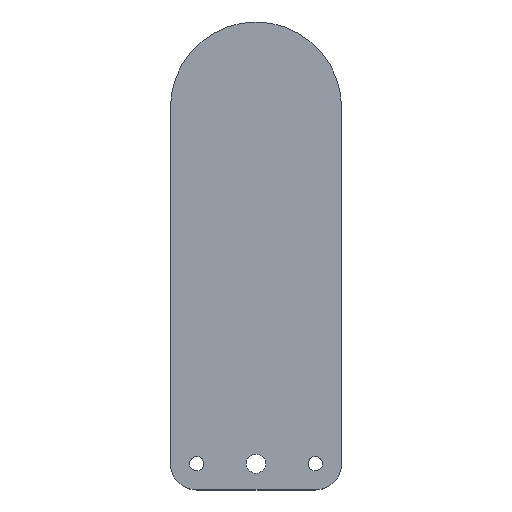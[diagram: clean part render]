
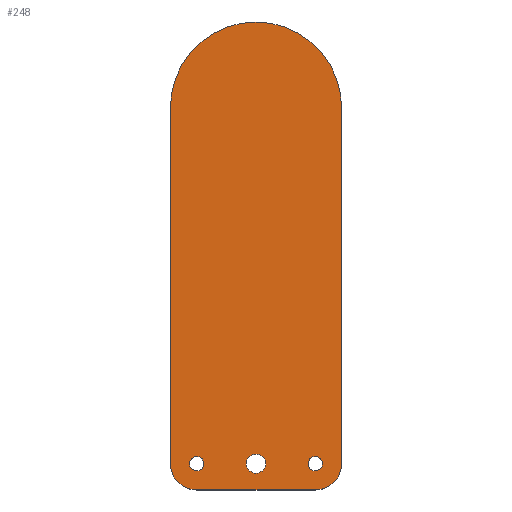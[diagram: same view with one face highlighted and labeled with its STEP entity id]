
A CAD part, top view. The second image highlights one B-rep face of the part: STEP entity #248.
In plain terms, the highlighted planar face has unit normal (0, 0, 1).
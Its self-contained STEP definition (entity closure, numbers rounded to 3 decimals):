
#19=FACE_BOUND('',#58,.T.);
#20=FACE_BOUND('',#59,.T.);
#21=FACE_BOUND('',#60,.T.);
#27=PLANE('',#289);
#40=FACE_OUTER_BOUND('',#57,.T.);
#57=EDGE_LOOP('',(#220,#221,#222,#223,#224,#225));
#58=EDGE_LOOP('',(#226));
#59=EDGE_LOOP('',(#227));
#60=EDGE_LOOP('',(#228));
#65=LINE('',#394,#83);
#70=LINE('',#405,#88);
#78=LINE('',#430,#96);
#83=VECTOR('',#320,10.);
#88=VECTOR('',#331,10.);
#96=VECTOR('',#361,10.);
#105=CIRCLE('',#276,36.05);
#106=CIRCLE('',#279,3.05);
#107=CIRCLE('',#281,4.05);
#108=CIRCLE('',#283,3.05);
#109=CIRCLE('',#285,11.05);
#110=CIRCLE('',#287,11.05);
#122=VERTEX_POINT('',#392);
#123=VERTEX_POINT('',#393);
#125=VERTEX_POINT('',#400);
#126=VERTEX_POINT('',#404);
#128=VERTEX_POINT('',#410);
#129=VERTEX_POINT('',#414);
#130=VERTEX_POINT('',#418);
#131=VERTEX_POINT('',#422);
#132=VERTEX_POINT('',#426);
#145=EDGE_CURVE('',#122,#123,#65,.T.);
#149=EDGE_CURVE('',#123,#125,#105,.T.);
#151=EDGE_CURVE('',#126,#125,#70,.T.);
#155=EDGE_CURVE('',#128,#128,#106,.T.);
#157=EDGE_CURVE('',#129,#129,#107,.T.);
#159=EDGE_CURVE('',#130,#130,#108,.T.);
#160=EDGE_CURVE('',#122,#131,#109,.T.);
#163=EDGE_CURVE('',#132,#126,#110,.T.);
#164=EDGE_CURVE('',#131,#132,#78,.T.);
#220=ORIENTED_EDGE('',*,*,#164,.F.);
#221=ORIENTED_EDGE('',*,*,#160,.F.);
#222=ORIENTED_EDGE('',*,*,#145,.T.);
#223=ORIENTED_EDGE('',*,*,#149,.T.);
#224=ORIENTED_EDGE('',*,*,#151,.F.);
#225=ORIENTED_EDGE('',*,*,#163,.F.);
#226=ORIENTED_EDGE('',*,*,#159,.F.);
#227=ORIENTED_EDGE('',*,*,#157,.F.);
#228=ORIENTED_EDGE('',*,*,#155,.F.);
#248=ADVANCED_FACE('',(#40,#19,#20,#21),#27,.F.);
#276=AXIS2_PLACEMENT_3D('',#401,#326,#327);
#279=AXIS2_PLACEMENT_3D('',#412,#337,#338);
#281=AXIS2_PLACEMENT_3D('',#416,#342,#343);
#283=AXIS2_PLACEMENT_3D('',#420,#347,#348);
#285=AXIS2_PLACEMENT_3D('',#423,#351,#352);
#287=AXIS2_PLACEMENT_3D('',#428,#357,#358);
#289=AXIS2_PLACEMENT_3D('',#431,#362,#363);
#320=DIRECTION('',(0.,1.,0.));
#326=DIRECTION('center_axis',(0.,0.,1.));
#327=DIRECTION('ref_axis',(0.,-1.,0.));
#331=DIRECTION('',(0.,1.,0.));
#337=DIRECTION('center_axis',(0.,0.,1.));
#338=DIRECTION('ref_axis',(0.,1.,0.));
#342=DIRECTION('center_axis',(0.,0.,1.));
#343=DIRECTION('ref_axis',(0.,1.,0.));
#347=DIRECTION('center_axis',(0.,0.,1.));
#348=DIRECTION('ref_axis',(0.,1.,0.));
#351=DIRECTION('center_axis',(0.,0.,-1.));
#352=DIRECTION('ref_axis',(0.,1.,0.));
#357=DIRECTION('center_axis',(0.,0.,-1.));
#358=DIRECTION('ref_axis',(0.,-1.,0.));
#361=DIRECTION('',(-1.,0.,0.));
#362=DIRECTION('center_axis',(0.,0.,-1.));
#363=DIRECTION('ref_axis',(0.,1.,0.));
#392=CARTESIAN_POINT('',(35.965,-350.,276.));
#393=CARTESIAN_POINT('',(35.965,-200.,276.));
#394=CARTESIAN_POINT('',(35.965,-350.,276.));
#400=CARTESIAN_POINT('',(-36.135,-200.,276.));
#401=CARTESIAN_POINT('Origin',(-0.085,-200.,276.));
#404=CARTESIAN_POINT('',(-36.135,-350.,276.));
#405=CARTESIAN_POINT('',(-36.135,-350.,276.));
#410=CARTESIAN_POINT('',(-25.085,-353.05,276.));
#412=CARTESIAN_POINT('Origin',(-25.085,-350.,276.));
#414=CARTESIAN_POINT('',(-0.085,-354.05,276.));
#416=CARTESIAN_POINT('Origin',(-0.085,-350.,276.));
#418=CARTESIAN_POINT('',(24.915,-353.05,276.));
#420=CARTESIAN_POINT('Origin',(24.915,-350.,276.));
#422=CARTESIAN_POINT('',(24.915,-361.05,276.));
#423=CARTESIAN_POINT('Origin',(24.915,-350.,276.));
#426=CARTESIAN_POINT('',(-25.085,-361.05,276.));
#428=CARTESIAN_POINT('Origin',(-25.085,-350.,276.));
#430=CARTESIAN_POINT('',(24.915,-361.05,276.));
#431=CARTESIAN_POINT('Origin',(-0.085,-350.,276.));
